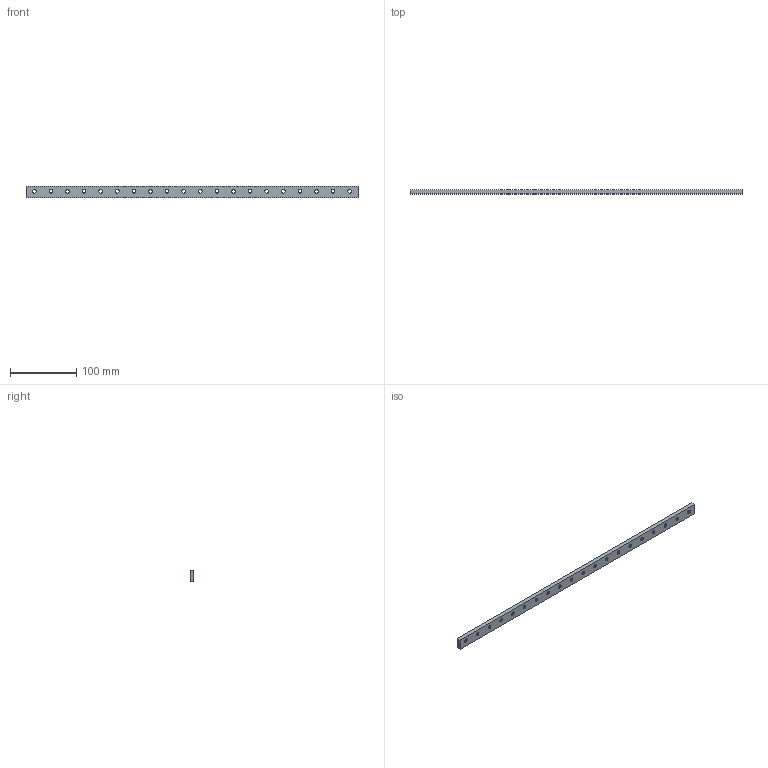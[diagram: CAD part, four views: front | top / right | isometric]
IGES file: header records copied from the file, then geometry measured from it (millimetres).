
Start section: START RECORD GO HERE.
Global section: file name: CF-GP-06-500.igs; native system: DASSAULT SYSTEMES CATIA V5 R20 - www.3ds.com; preprocessor: CATIA Version 5 Release 20 ; author: Utente; organization: NB04-ASUS; date: 20210221.170418; units: millimetre
Bounding box: 500 x 6 x 17 mm (x, y, z)
Surface area: 25458.1 mm2 (no closed solid volume)
Topology: 0 solids, 0 shells, 106 faces, 824 edges, 824 vertices
Faces by surface type: revolution 80, plane 26
